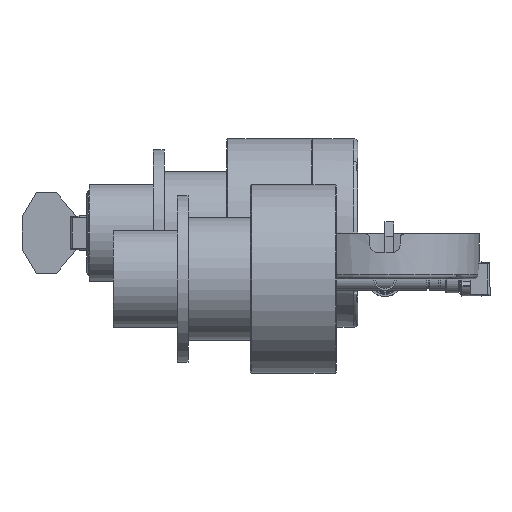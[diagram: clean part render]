
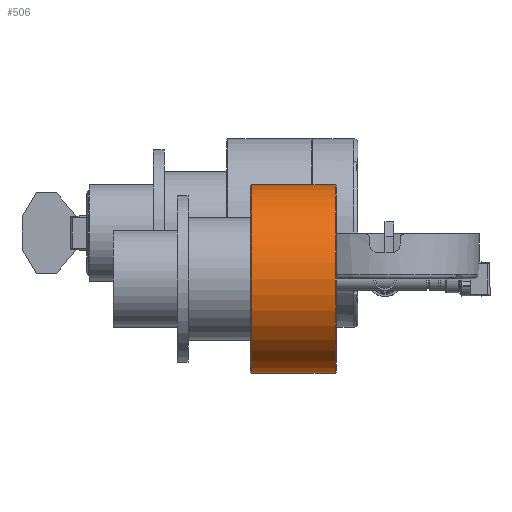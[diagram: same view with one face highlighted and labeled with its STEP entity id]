
A CAD part, left-side view. The second image highlights one B-rep face of the part: STEP entity #506.
In plain terms, the highlighted cylindrical face has radius 21.5 mm (diameter 43 mm), a full revolution.
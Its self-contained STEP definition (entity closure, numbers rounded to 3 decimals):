
#506 = ADVANCED_FACE( '', ( #981, #982 ), #983, .T. );
#981 = FACE_OUTER_BOUND( '', #1446, .T. );
#982 = FACE_OUTER_BOUND( '', #1447, .T. );
#983 = CYLINDRICAL_SURFACE( '', #1448, 21.5 );
#1446 = EDGE_LOOP( '', ( #2320 ) );
#1447 = EDGE_LOOP( '', ( #2321 ) );
#1448 = AXIS2_PLACEMENT_3D( '', #2322, #2323, #2324 );
#2320 = ORIENTED_EDGE( '', *, *, #3004, .T. );
#2321 = ORIENTED_EDGE( '', *, *, #3013, .T. );
#2322 = CARTESIAN_POINT( '', ( -71.496, 82.757, 0. ) );
#2323 = DIRECTION( '', ( 0., 1., 0. ) );
#2324 = DIRECTION( '', ( 0., 0., 1. ) );
#3004 = EDGE_CURVE( '', #3449, #3449, #3450, .T. );
#3013 = EDGE_CURVE( '', #3465, #3465, #3466, .T. );
#3449 = VERTEX_POINT( '', #4087 );
#3450 = CIRCLE( '', #4088, 21.5 );
#3465 = VERTEX_POINT( '', #4103 );
#3466 = CIRCLE( '', #4104, 21.5 );
#4087 = CARTESIAN_POINT( '', ( -71.496, 11.354, -21.5 ) );
#4088 = AXIS2_PLACEMENT_3D( '', #4589, #4590, #4591 );
#4103 = CARTESIAN_POINT( '', ( -71.496, 30.354, 21.5 ) );
#4104 = AXIS2_PLACEMENT_3D( '', #4613, #4614, #4615 );
#4589 = CARTESIAN_POINT( '', ( -71.496, 11.354, 0. ) );
#4590 = DIRECTION( '', ( 0., 1., 0. ) );
#4591 = DIRECTION( '', ( 0., 0., -1. ) );
#4613 = CARTESIAN_POINT( '', ( -71.496, 30.354, 0. ) );
#4614 = DIRECTION( '', ( 0., -1., 0. ) );
#4615 = DIRECTION( '', ( 0., 0., 1. ) );
